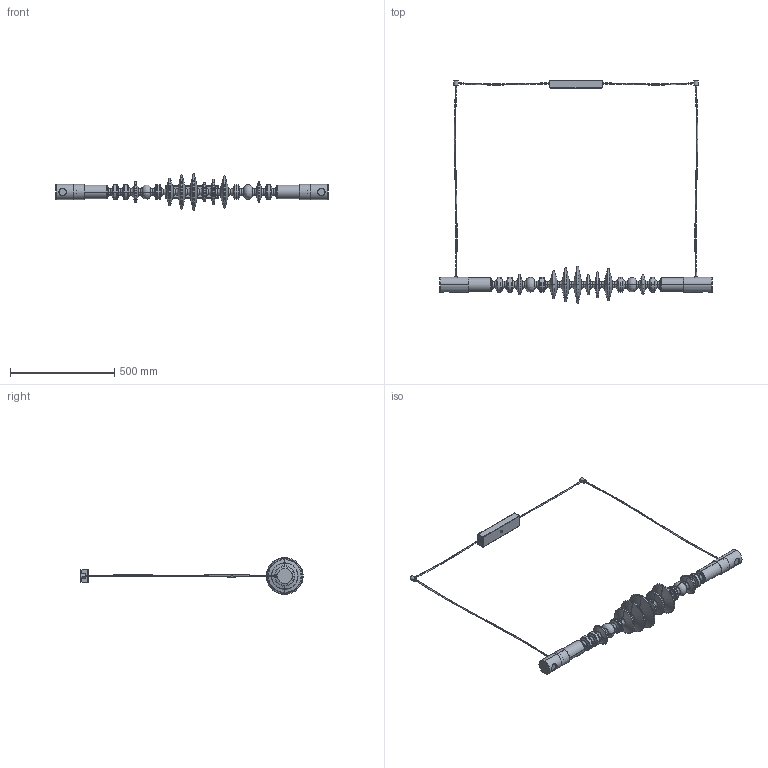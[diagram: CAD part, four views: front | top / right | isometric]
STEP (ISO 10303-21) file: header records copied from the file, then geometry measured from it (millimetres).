
FILE_DESCRIPTION (( 'STEP AP203' ), '1' );
FILE_NAME ('ATP-X21-S400-R02 - Architetti.STEP', '2026-04-30T09:00:47', ( '' ), ( '' ), 'SwSTEP 2.0', 'SolidWorks 2025', '' );
FILE_SCHEMA (( 'CONFIG_CONTROL_DESIGN' ));
Length unit declared in the file: millimetre
Products named in the file (16): Nipplo Steab 5475xx_NIPPLO M10x1 H.7 TRASP.; ATC-X21-S414-R00 - Architetti; Grano con Cava Esagonale UNI-5923_GRANO M4X6 ESTREMITA'' PIANA UNI-5923; ATA-X21-S401-R00 - Architetti; ATC-X21-S411-R00 - Architetti_Default<A macchina>; ATP-X21-S400-R02 - Architetti; ATC-X21-S400-R02 - Architetti; ATC-X21-S407-R01 - Architetti; Nipplo Cieco Steab 5016xx; Vite a Testa Svasata Piana Cava Esagonale UNI-5933_VITE M3X8 TSPCE UNI-5933; ATA-X21-S402-R00 - Architetti; Lamp. GU10 Ø35 - PAR11 35 Osram_LAMPADA GU10 50W 220V; ATA-X21-S400-R00 - Architetti_Sosp. Singola; ATC-X21-S406-R00; Viti a Testa Bombata e Cava Esagonale ISO-7380_VITE M3X12 TBCE ISO-7380 ; ATC-X21-S490-R00
Assembly tree (30 placements, depth 4):
  ATP-X21-S400-R02 - Architetti
    ATA-X21-S401-R00 - Architetti
      Lamp. GU10 Ø35 - PAR11 35 Osram_LAMPADA GU10 50W 220V  x4
      Vite a Testa Svasata Piana Cava Esagonale UNI-5933_VITE M3X8 TSPCE UNI-5933  x4
      Nipplo Steab 5475xx_NIPPLO M10x1 H.7 TRASP.  x2
      Grano con Cava Esagonale UNI-5923_GRANO M4X6 ESTREMITA'' PIANA UNI-5923  x2
      ATC-X21-S490-R00  x2
      ATA-X21-S400-R00 - Architetti_Sosp. Singola
        Viti a Testa Bombata e Cava Esagonale ISO-7380_VITE M3X12 TBCE ISO-7380   x2
        Nipplo Steab 5475xx_NIPPLO M10x1 H.7 TRASP.  x2
        Nipplo Cieco Steab 5016xx
        ATC-X21-S414-R00 - Architetti
      ATC-X21-S407-R01 - Architetti  x2
      ATC-X21-S400-R02 - Architetti  x2
    ATA-X21-S402-R00 - Architetti
      ATC-X21-S411-R00 - Architetti_Default<A macchina>  x2
      ATC-X21-S406-R00
Bounding box: 1307 x 1068 x 177 mm (x, y, z)
Volume: 1751947.4 mm3; surface area: 1073818.5 mm2
Topology: 30 solids, 30 shells, 903 faces, 1881 edges, 1080 vertices
Faces by surface type: torus 248, cylinder 245, plane 204, cone 188, bspline 18
Entity records: 22000 total; most frequent: CARTESIAN_POINT 6043, DIRECTION 3346, ORIENTED_EDGE 2624, AXIS2_PLACEMENT_3D 1456, EDGE_CURVE 1312, CIRCLE 803, VERTEX_POINT 731, EDGE_LOOP 679
